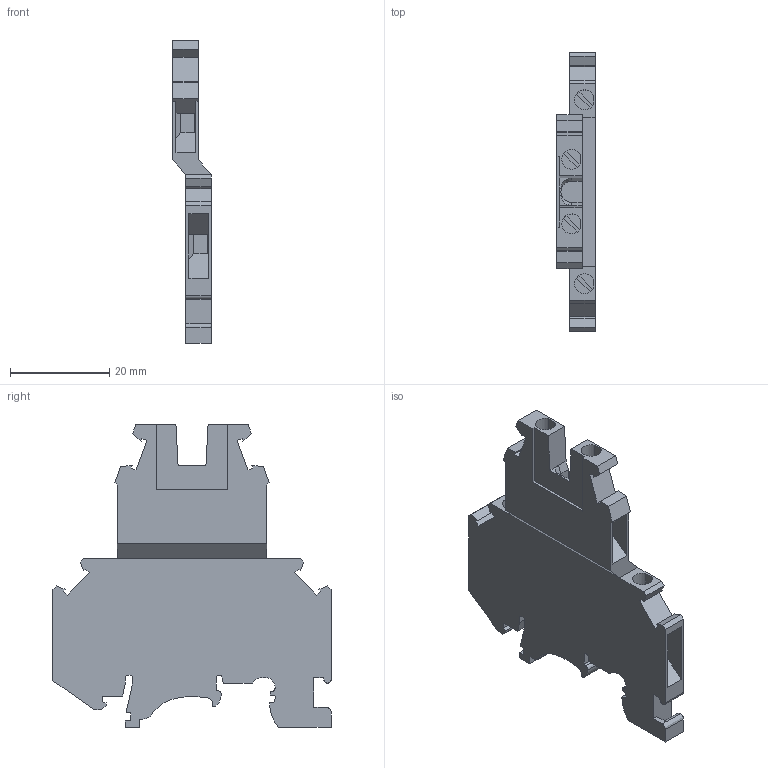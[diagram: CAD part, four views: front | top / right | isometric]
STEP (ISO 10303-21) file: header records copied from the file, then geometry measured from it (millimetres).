
FILE_DESCRIPTION(('Creo Elements/Direct Modeling STEP Export'),'2;1');
FILE_NAME('C:/Temp/JobServerData/JobServer Files/9875c5f1-6401-43a3-b4e4-ddd72fdb4cff/work/output/model.stp','2021-06-24T 7:29:43',(''),(''),'Creo Elements/Direct Modeling STEP processor for AP214 (Solid Model)','Creo Elements/Direct Modeling 20.1D 10-Oct-2020 (C) Parametric Technology GmbH','');
FILE_SCHEMA(('AUTOMOTIVE_DESIGN { 1 0 10303 214 1 1 1 1 }'));
Length unit declared in the file: millimetre
Products named in the file (2): UKK_3-select
Assembly tree (1 placements, depth 2):
  UKK_3-select
    UKK_3-select
Bounding box: 7.75 x 56 x 60.9 mm (x, y, z)
Volume: 10039.8 mm3; surface area: 7164 mm2
Topology: 1 solids, 1 shells, 198 faces, 553 edges, 363 vertices
Faces by surface type: plane 172, cylinder 23, cone 2, bspline 1
Entity records: 8330 total; most frequent: CARTESIAN_POINT 1628, ORIENTED_EDGE 1106, DIRECTION 979, EDGE_CURVE 553, VECTOR 479, LINE 479, VERTEX_POINT 363, AXIS2_PLACEMENT_3D 250
